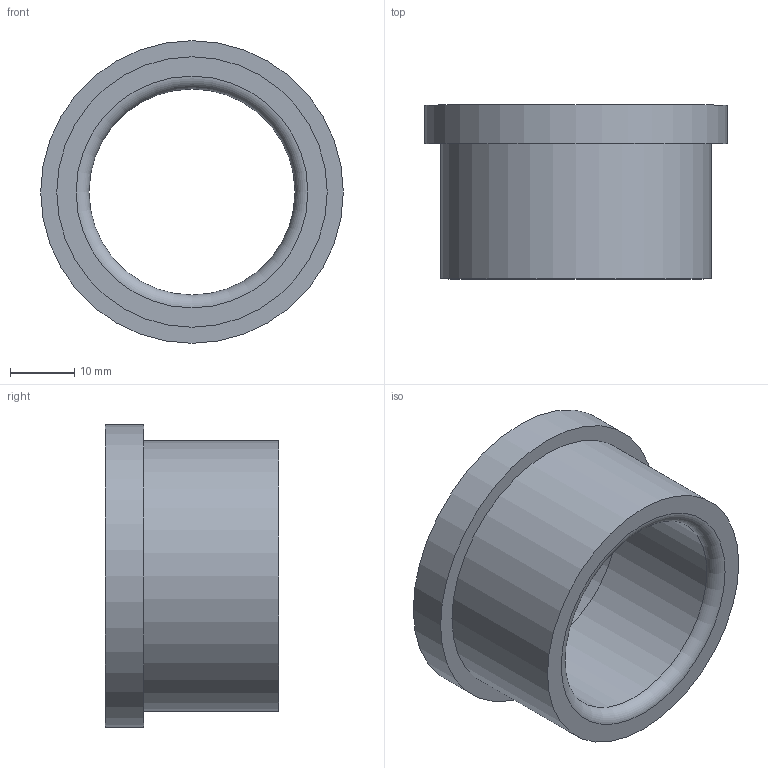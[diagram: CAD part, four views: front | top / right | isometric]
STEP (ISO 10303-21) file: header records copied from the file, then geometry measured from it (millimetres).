
FILE_DESCRIPTION(/* description */ ('STEP AP214'),/* implementation_level */ '2;1');
FILE_NAME(/* name */ '03_12_17945',/* time_stamp */ '2023-06-15T11:35:39+02:00',/* author */ ('License CC BY-ND 4.0'),/* organization */ ('CADENAS'),/* preprocessor_version */ 'ST-DEVELOPER v19.3',/* originating_system */ 'PARTsolutions',/* authorisation */ ' ');
FILE_SCHEMA (('AUTOMOTIVE_DESIGN {1 0 10303 214 3 1 1}'));
Length unit declared in the file: millimetre
Products named in the file (1): VA_Bushing_17945
Bounding box: 47 x 27 x 47 mm (x, y, z)
Volume: 17445.9 mm3; surface area: 8072.1 mm2
Topology: 1 solids, 1 shells, 10 faces, 16 edges, 10 vertices
Faces by surface type: cylinder 4, plane 4, torus 2
Full cylindrical faces by diameter (mm): 32 x1, 32.6 x1, 42 x1, 47 x1
Entity records: 302 total; most frequent: DIRECTION 42, CARTESIAN_POINT 31, AXIS2_PLACEMENT_3D 21, ORIENTED_EDGE 20, EDGE_LOOP 20, FACE_BOUND 20, EDGE_CURVE 10, VERTEX_POINT 10
